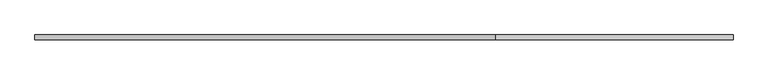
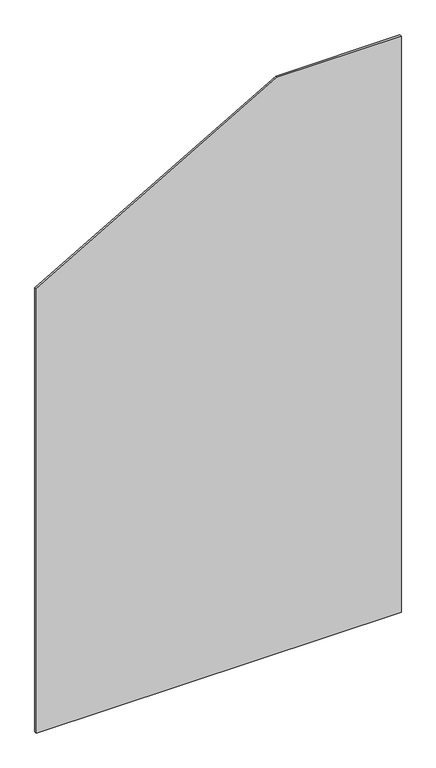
"""IFC4 building model written with IfcOpenShell, lengths in millimetres: plate geometry, 系統嵌板 : 玻璃 1.0cm."""

from ifc_helpers import new_model, si_unit, frame, origin, place, context, project, spatial, polyline, outline, extrude, source, transform, mapped, element, save


def plate_f3c4d13c(model_context):
    return source(origin(), model_context, "Body", "SweptSolid", [
        extrude(outline(polyline([(0.0, -750.0), (0.0, 750.0), (2500.0, 750.0), (2500.0, 240.3810568), (1928.2032303, -750.0), (0.0, -750.0)])), frame((0.0, -5.0, 0.0), z_axis=(0.0, 1.0, 0.0), x_axis=(0.0, 0.0, 1.0)), (0.0, 0.0, 1.0), 10.0),
    ])


if __name__ == "__main__":
    model = new_model("IFC4")
    model_context = context("Model", 3, world=origin())
    ifc_project = project(units=[si_unit("LENGTHUNIT", "METRE", prefix="MILLI")], contexts=[model_context])
    site = spatial("IfcSite", under=ifc_project)
    building = spatial("IfcBuilding", under=site)
    placement = place(None, origin())
    plate_shape = plate_f3c4d13c(model_context)
    element("IfcPlate", 1, ObjectType="系統嵌板 : 玻璃 1.0cm", at=placement, inside=building, context=model_context, shape_type="MappedRepresentation", body=[
        mapped(plate_shape, transform((0.0, 0.0, 0.0), x_axis=(1.0, 0.0, 0.0), y_axis=(0.0, 1.0, 0.0), z_axis=(0.0, 0.0, 1.0))),
    ])
    save(model, "model.ifc")
